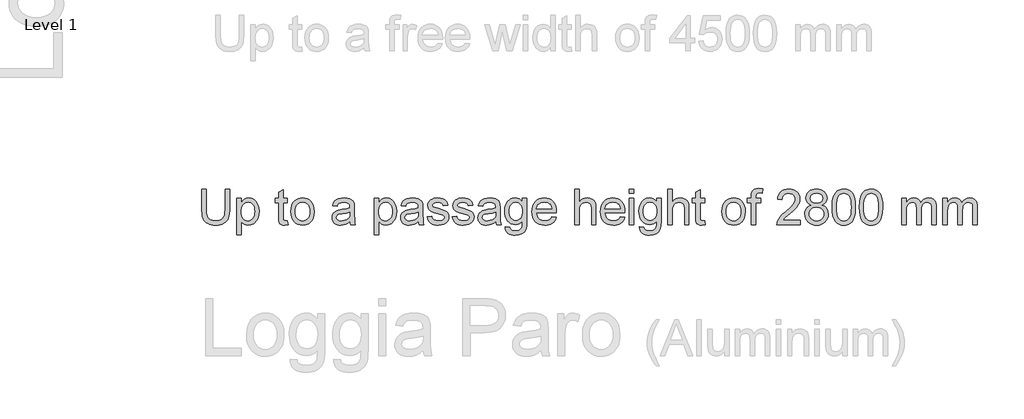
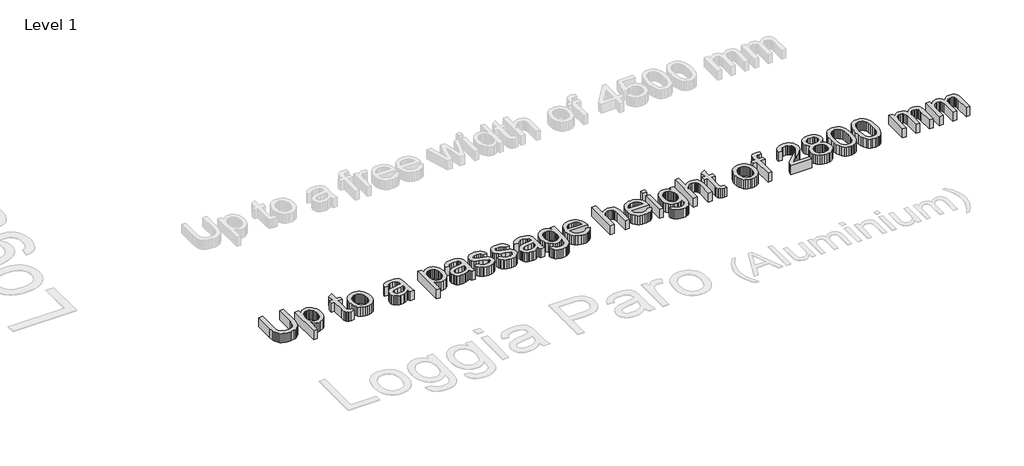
# One storey, part 16 of 47: 1 proxy.
"""IFC4 building model written with IfcOpenShell, lengths in millimetres."""

from ifc_helpers import new_model, si_unit, origin, origin_with_axes, place, context, project, spatial, polyline, outline, extrude, element, save

model = new_model("IFC4")

# Units and contexts
model_context = context("Model", 3, world=origin())
ifc_project = project(units=[si_unit("LENGTHUNIT", "METRE", prefix="MILLI")], contexts=[model_context])

# Site, building, storey
site = spatial("IfcSite", under=ifc_project)
building = spatial("IfcBuilding", under=site)
storey = spatial("IfcBuildingStorey", under=building, Name="Level 1", Elevation=0.0)

# Proxy
placement = place(None, origin())
element("IfcBuildingElementProxy", 1, Name="500mm Arial", ObjectType="500mm Arial", at=placement, inside=storey, context=model_context, shape_type="SweptSolid", body=[
    extrude(outline(polyline([(173203.9255584, -15404.5346793), (173266.7107522, -15404.5346793), (173266.7107522, -15694.3030641), (173262.4494525, -15762.1619638), (173249.6655531, -15814.4165355), (173239.4338351, -15835.6080713), (173225.7838803, -15854.7302708), (173208.7156886, -15871.7831342), (173188.2292599, -15886.7666613), (173164.3016018, -15898.9719129), (173136.9097216, -15907.6899497), (173106.0536193, -15912.9207719), (173071.7332948, -15914.6643792), (173038.2598653, -15913.146866), (173007.9824107, -15908.5943263), (172980.9009309, -15901.0067602), (172957.015426, -15890.3841675), (172936.3220637, -15876.8836647), (172918.8170121, -15860.662368), (172904.5002712, -15841.7202774), (172893.3718408, -15820.0573928), (172885.0293501, -15794.9302861), (172879.0704282, -15765.5955291), (172874.3032907, -15694.3030641), (172874.3032907, -15404.5346793), (172937.0884846, -15404.5346793), (172937.0884846, -15692.0957721), (172940.1848247, -15748.5196732), (172949.4738451, -15787.8064046), (172966.3044464, -15815.0143438), (172992.0255292, -15835.2018683), (173025.5641044, -15847.7098561), (173065.8471829, -15851.8791854), (173100.4510831, -15849.8175134), (173129.7053659, -15843.6324973), (173153.6100314, -15833.3241373), (173172.1650795, -15818.8924332), (173186.060289, -15798.5976098), (173195.9854387, -15770.6998918), (173201.9405285, -15735.1992792), (173203.9255584, -15692.0957721), (173203.9255584, -15404.5346793)])), origin_with_axes(), (0.0, 0.0, 1.0), 150.0),
    extrude(outline(polyline([(173368.7366922, -16048.0829161), (173368.7366922, -15537.9532162), (173431.5218861, -15537.9532162), (173431.5218861, -15599.5121367), (173452.0006505, -15569.1465437), (173474.9319615, -15547.4568344), (173501.6647198, -15534.4430088), (173533.5478261, -15530.1050669), (173555.444469, -15531.6225802), (173576.0075397, -15536.1751199), (173595.2370381, -15543.762686), (173613.1329644, -15554.3852786), (173629.3044437, -15567.7669862), (173643.3606016, -15583.6318972), (173665.126953, -15622.8113297), (173678.2787344, -15669.0724906), (173682.6626615, -15719.5642945), (173677.7115829, -15773.2597373), (173662.8583474, -15821.2836661), (173651.8372159, -15842.5595082), (173638.5781357, -15861.1988626), (173623.0811067, -15877.2017294), (173605.3461288, -15890.5681085), (173566.6418772, -15908.6403116), (173525.9449315, -15914.6643792), (173497.0815233, -15910.6330057), (173471.3144552, -15898.5388851), (173449.2568639, -15880.2827411), (173431.5218861, -15857.7652973), (173431.5218861, -16048.0829161), (173368.7366922, -16048.0829161)]), holes=[polyline([(173431.5218861, -15725.327779), (173433.2195082, -15755.5860731), (173438.3123746, -15781.6137243), (173446.8004852, -15803.4107325), (173458.6838401, -15820.9770978), (173472.9890847, -15834.4967611), (173488.7428648, -15844.1536635), (173505.9451801, -15849.9478049), (173524.5960309, -15851.8791854), (173543.5151289, -15849.878827), (173561.0316768, -15843.877752), (173577.1456746, -15833.8759602), (173591.8571223, -15819.8734518), (173604.1160234, -15801.6709573), (173612.8723813, -15779.0692072), (173618.126196, -15752.0682016), (173619.8774676, -15720.6679404), (173618.1683492, -15690.6702294), (173613.0409939, -15664.6885635), (173604.4954017, -15642.7229427), (173592.5315726, -15624.773367), (173578.191839, -15610.824508), (173562.5185332, -15600.8610373), (173545.5116551, -15594.8829549), (173527.1712048, -15592.8902608), (173508.8882361, -15595.0094144), (173491.6859207, -15601.3668751), (173475.5642587, -15611.962643), (173460.52325, -15626.796718), (173447.8351533, -15645.6698308), (173438.7722271, -15668.3827119), (173433.3344713, -15694.9353613), (173431.5218861, -15725.327779)])]), origin_with_axes(), (0.0, 0.0, 1.0), 150.0),
    extrude(outline(polyline([(174082.9182722, -15854.4543594), (174090.7664214, -15908.65564), (174043.8001534, -15914.6643792), (174013.6644866, -15912.0585484), (173991.1930281, -15904.241056), (173975.3127886, -15892.1929207), (173964.9507791, -15876.8951611), (173959.2486082, -15850.6222552), (173957.3478845, -15805.6486813), (173957.3478845, -15600.73841), (173910.2589891, -15600.73841), (173910.2589891, -15537.9532162), (173957.3478845, -15537.9532162), (173957.3478845, -15448.3126367), (174020.1330784, -15411.4018098), (174020.1330784, -15537.9532162), (174082.9182722, -15537.9532162), (174082.9182722, -15600.73841), (174020.1330784, -15600.73841), (174020.1330784, -15803.8092714), (174023.4440163, -15836.1828869), (174034.1739079, -15847.6485424), (174055.5723772, -15851.8791854), (174082.9182722, -15854.4543594)])), origin_with_axes(), (0.0, 0.0, 1.0), 150.0),
    extrude(outline(polyline([(174130.0071676, -15722.3847231), (174133.4024118, -15674.6137132), (174143.5881446, -15633.4492508), (174160.5643658, -15598.8913358), (174184.3310756, -15570.9399684), (174208.2587337, -15553.074699), (174234.6695952, -15540.3137923), (174263.5636603, -15532.6572483), (174294.9409288, -15530.1050669), (174329.5793179, -15533.2129034), (174360.8991048, -15542.5364127), (174388.9002896, -15558.0755949), (174413.5828722, -15579.83045), (174433.7282436, -15607.0652139), (174448.1177945, -15639.0441228), (174456.7515251, -15675.7671765), (174459.6294353, -15717.2343752), (174454.540401, -15780.6633625), (174448.1791082, -15806.6986779), (174439.2732982, -15828.9478744), (174427.9341021, -15848.1658765), (174414.272651, -15865.1076088), (174398.2889447, -15879.7730713), (174379.9829833, -15892.1622639), (174339.2553808, -15909.0388504), (174294.9409288, -15914.6643792), (174259.7967019, -15911.5680391), (174228.1856751, -15902.2790187), (174200.1078482, -15886.7973181), (174175.5632213, -15865.1229372), (174155.6324478, -15837.6237581), (174141.396181, -15804.6676627), (174132.854421, -15766.254651), (174130.0071676, -15722.3847231)]), holes=[polyline([(174192.7923614, -15722.2620958), (174194.6087788, -15752.7158272), (174200.0580308, -15779.0845356), (174209.1401176, -15801.368221), (174221.8550391, -15819.5668835), (174237.3214113, -15833.7035156), (174254.6578503, -15843.8011099), (174273.8643561, -15849.8596665), (174294.9409288, -15851.8791854), (174315.9102025, -15849.8481702), (174335.0400662, -15843.7551247), (174352.33052, -15833.6000488), (174367.7815638, -15819.3829425), (174380.4964853, -15801.0041711), (174389.578572, -15778.3641), (174395.0278241, -15751.4627291), (174396.8442414, -15720.3000584), (174395.0163278, -15690.8120173), (174389.5325868, -15665.1330876), (174380.3930185, -15643.2632694), (174367.5976228, -15625.2025627), (174352.0890975, -15611.0659306), (174334.81014, -15600.9683363), (174315.7607504, -15594.9097797), (174294.9409288, -15592.8902608), (174273.8643561, -15594.9021154), (174254.6578503, -15600.9376794), (174237.3214113, -15610.9969527), (174221.8550391, -15625.0799354), (174209.1401176, -15643.2249484), (174200.0580308, -15665.4703127), (174194.6087788, -15691.8160285), (174192.7923614, -15722.2620958)])]), origin_with_axes(), (0.0, 0.0, 1.0), 150.0),
    extrude(outline(polyline([(174961.910986, -15859.7273346), (174931.913275, -15885.4484174), (174901.0265158, -15902.2790187), (174868.5456013, -15911.5680391), (174833.7654244, -15914.6643792), (174805.8102248, -15912.8019766), (174781.2962548, -15907.2147688), (174760.2235143, -15897.9027558), (174742.5920032, -15884.8659376), (174728.669969, -15868.9320487), (174718.7256588, -15850.9288236), (174712.7590727, -15830.8562622), (174710.7702106, -15808.7143646), (174713.7745803, -15782.6867135), (174722.7876892, -15759.0502953), (174736.6905629, -15738.8167855), (174754.3642271, -15722.9978597), (174775.1342314, -15711.0416949), (174798.3261255, -15702.396468), (174852.6500335, -15692.9541635), (174916.8454416, -15683.0213496), (174961.543104, -15671.3717531), (174961.910986, -15657.3922373), (174957.5883726, -15629.371892), (174944.6205323, -15611.0391059), (174931.545393, -15603.0989861), (174915.6191683, -15597.4274721), (174875.2134625, -15592.8902608), (174837.8121263, -15595.9099588), (174811.6925047, -15604.969053), (174793.8808847, -15621.7230122), (174781.4035537, -15647.8273054), (174718.6183599, -15639.9791562), (174729.516864, -15605.6435033), (174745.7803139, -15578.6654903), (174768.9262227, -15558.0334417), (174800.4721038, -15542.7356821), (174839.0537281, -15533.2627207), (174883.3068664, -15530.1050669), (174925.7512516, -15532.8948387), (174959.3971257, -15541.2641541), (174984.765655, -15553.848784), (175002.3780055, -15569.2844994), (175014.0582588, -15588.3683779), (175021.6304966, -15611.8974972), (175024.6961799, -15666.8345418), (175024.6961799, -15744.9481521), (175027.8844905, -15854.0251637), (175032.6056428, -15880.9878483), (175040.3924783, -15906.81623), (174977.6072845, -15906.81623), (174967.5518433, -15884.988565), (174961.910986, -15859.7273346)]), holes=[polyline([(174961.910986, -15734.1569469), (174919.7271839, -15744.610927), (174860.62081, -15753.409438), (174806.6034704, -15763.5875065), (174792.5473125, -15770.5466076), (174782.1393177, -15780.1421963), (174775.7013828, -15791.6385087), (174773.5554045, -15804.2997807), (174778.2305715, -15822.9697919), (174792.2560726, -15838.2675516), (174815.3253394, -15848.4762769), (174847.1318035, -15851.8791854), (174880.8543198, -15848.1237234), (174910.6527614, -15836.8573373), (174934.8103457, -15820.2566622), (174951.6102902, -15800.4983334), (174959.0599006, -15780.1421963), (174961.543104, -15751.93791), (174961.910986, -15734.1569469)])]), origin_with_axes(), (0.0, 0.0, 1.0), 150.0),
    extrude(outline(polyline([(175307.2295522, -16048.0829161), (175307.2295522, -15537.9532162), (175370.014746, -15537.9532162), (175370.014746, -15599.5121367), (175390.4935104, -15569.1465437), (175413.4248214, -15547.4568344), (175440.1575798, -15534.4430088), (175472.040686, -15530.1050669), (175493.9373289, -15531.6225802), (175514.5003996, -15536.1751199), (175533.7298981, -15543.762686), (175551.6258243, -15554.3852786), (175567.7973037, -15567.7669862), (175581.8534616, -15583.6318972), (175603.6198129, -15622.8113297), (175616.7715943, -15669.0724906), (175621.1555214, -15719.5642945), (175616.2044429, -15773.2597373), (175601.3512073, -15821.2836661), (175590.3300759, -15842.5595082), (175577.0709956, -15861.1988626), (175561.5739666, -15877.2017294), (175543.8389887, -15890.5681085), (175505.1347372, -15908.6403116), (175464.4377914, -15914.6643792), (175435.5743832, -15910.6330057), (175409.8073152, -15898.5388851), (175387.7497239, -15880.2827411), (175370.014746, -15857.7652973), (175370.014746, -16048.0829161), (175307.2295522, -16048.0829161)]), holes=[polyline([(175370.014746, -15725.327779), (175371.7123681, -15755.5860731), (175376.8052345, -15781.6137243), (175385.2933451, -15803.4107325), (175397.1767, -15820.9770978), (175411.4819446, -15834.4967611), (175427.2357247, -15844.1536635), (175444.4380401, -15849.9478049), (175463.0888908, -15851.8791854), (175482.0079888, -15849.878827), (175499.5245367, -15843.877752), (175515.6385345, -15833.8759602), (175530.3499822, -15819.8734518), (175542.6088833, -15801.6709573), (175551.3652412, -15779.0692072), (175556.619056, -15752.0682016), (175558.3703275, -15720.6679404), (175556.6612091, -15690.6702294), (175551.5338538, -15664.6885635), (175542.9882616, -15642.7229427), (175531.0244326, -15624.773367), (175516.684699, -15610.824508), (175501.0113931, -15600.8610373), (175484.0045151, -15594.8829549), (175465.6640648, -15592.8902608), (175447.381096, -15595.0094144), (175430.1787806, -15601.3668751), (175414.0571186, -15611.962643), (175399.01611, -15626.796718), (175386.3280132, -15645.6698308), (175377.265087, -15668.3827119), (175371.8273313, -15694.9353613), (175370.014746, -15725.327779)])]), origin_with_axes(), (0.0, 0.0, 1.0), 150.0),
    extrude(outline(polyline([(175927.2333414, -15859.7273346), (175897.2356303, -15885.4484174), (175866.3488712, -15902.2790187), (175833.8679567, -15911.5680391), (175799.0877797, -15914.6643792), (175771.1325802, -15912.8019766), (175746.6186102, -15907.2147688), (175725.5458696, -15897.9027558), (175707.9143586, -15884.8659376), (175693.9923243, -15868.9320487), (175684.0480141, -15850.9288236), (175678.081428, -15830.8562622), (175676.092566, -15808.7143646), (175679.0969356, -15782.6867135), (175688.1100445, -15759.0502953), (175702.0129182, -15738.8167855), (175719.6865824, -15722.9978597), (175740.4565867, -15711.0416949), (175763.6484808, -15702.396468), (175817.9723888, -15692.9541635), (175882.167797, -15683.0213496), (175926.8654594, -15671.3717531), (175927.2333414, -15657.3922373), (175922.9107279, -15629.371892), (175909.9428876, -15611.0391059), (175896.8677483, -15603.0989861), (175880.9415236, -15597.4274721), (175840.5358178, -15592.8902608), (175803.1344817, -15595.9099588), (175777.01486, -15604.969053), (175759.2032401, -15621.7230122), (175746.7259091, -15647.8273054), (175683.9407152, -15639.9791562), (175694.8392193, -15605.6435033), (175711.1026692, -15578.6654903), (175734.2485781, -15558.0334417), (175765.7944592, -15542.7356821), (175804.3760834, -15533.2627207), (175848.6292217, -15530.1050669), (175891.0736069, -15532.8948387), (175924.7194811, -15541.2641541), (175950.0880103, -15553.848784), (175967.7003608, -15569.2844994), (175979.3806142, -15588.3683779), (175986.9528519, -15611.8974972), (175990.0185352, -15666.8345418), (175990.0185352, -15744.9481521), (175993.2068458, -15854.0251637), (175997.9279981, -15880.9878483), (176005.7148337, -15906.81623), (175942.9296398, -15906.81623), (175932.8741986, -15884.988565), (175927.2333414, -15859.7273346)]), holes=[polyline([(175927.2333414, -15734.1569469), (175885.0495393, -15744.610927), (175825.9431654, -15753.409438), (175771.9258257, -15763.5875065), (175757.8696678, -15770.5466076), (175747.4616731, -15780.1421963), (175741.0237381, -15791.6385087), (175738.8777598, -15804.2997807), (175743.5529269, -15822.9697919), (175757.5784279, -15838.2675516), (175780.6476947, -15848.4762769), (175812.4541589, -15851.8791854), (175846.1766751, -15848.1237234), (175875.9751167, -15836.8573373), (175900.1327011, -15820.2566622), (175916.9326455, -15800.4983334), (175924.3822559, -15780.1421963), (175926.8654594, -15751.93791), (175927.2333414, -15734.1569469)])]), origin_with_axes(), (0.0, 0.0, 1.0), 150.0),
    extrude(outline(polyline([(176052.8037291, -15796.9421408), (176115.5889229, -15789.0939915), (176125.4910799, -15815.9493772), (176144.6516005, -15835.6923776), (176173.193112, -15847.8324834), (176211.2382416, -15851.8791854), (176248.8235188, -15848.1697086), (176275.2497088, -15837.0412782), (176290.8846936, -15820.9157841), (176296.0963552, -15802.215116), (176290.8540368, -15786.2122492), (176275.1270815, -15774.0108297), (176210.5024777, -15756.1072393), (176153.2048569, -15739.5372211), (176115.9568049, -15725.3890927), (176092.0291468, -15709.9533773), (176074.6927078, -15689.5205982), (176064.1620857, -15665.3936707), (176060.6518783, -15638.8755102), (176063.4723069, -15614.5493132), (176071.9335928, -15592.0931831), (176085.2693151, -15572.396168), (176102.7130531, -15556.3473159), (176120.0494921, -15546.2458895), (176142.6282495, -15537.7692752), (176168.7325428, -15532.021119), (176196.6455892, -15530.1050669), (176237.5111475, -15533.1860786), (176273.0424168, -15542.4291138), (176301.6145851, -15556.9297958), (176321.6028402, -15575.783748), (176334.846592, -15600.3858564), (176343.1852506, -15632.1310069), (176280.4000567, -15639.9791562), (176272.4752654, -15620.2208273), (176256.7942954, -15605.336935), (176233.2038624, -15596.0019293), (176201.5506824, -15592.8902608), (176165.4982469, -15595.8639736), (176141.4632899, -15604.785112), (176127.9436266, -15617.6609818), (176123.4370721, -15632.4988889), (176125.3071389, -15642.1557913), (176130.9173394, -15650.7703614), (176140.5129281, -15658.4652264), (176154.3391597, -15664.6272498), (176208.417813, -15677.993629), (176300.5722528, -15707.5468159), (176324.9137782, -15721.6796159), (176343.3691916, -15741.0240775), (176355.0034597, -15765.6415144), (176358.881549, -15795.5932401), (176354.3290094, -15826.5566414), (176340.6713903, -15855.6806327), (176318.429858, -15880.6812799), (176288.1255786, -15899.2746491), (176251.5213201, -15910.8169467), (176210.3798503, -15914.6643792), (176176.5883562, -15912.8096408), (176147.0734903, -15907.2454257), (176121.8352526, -15897.9717337), (176100.8736431, -15884.988565), (176083.7518019, -15868.3572331), (176070.0328692, -15848.1390518), (176059.7168449, -15824.334021), (176052.8037291, -15796.9421408)])), origin_with_axes(), (0.0, 0.0, 1.0), 150.0),
    extrude(outline(polyline([(176405.9704444, -15796.9421408), (176468.7556383, -15789.0939915), (176478.6577953, -15815.9493772), (176497.8183159, -15835.6923776), (176526.3598273, -15847.8324834), (176564.404957, -15851.8791854), (176601.9902342, -15848.1697086), (176628.4164242, -15837.0412782), (176644.051409, -15820.9157841), (176649.2630706, -15802.215116), (176644.0207521, -15786.2122492), (176628.2937968, -15774.0108297), (176563.669193, -15756.1072393), (176506.3715723, -15739.5372211), (176469.1235203, -15725.3890927), (176445.1958622, -15709.9533773), (176427.8594231, -15689.5205982), (176417.328801, -15665.3936707), (176413.8185937, -15638.8755102), (176416.6390223, -15614.5493132), (176425.1003082, -15592.0931831), (176438.4360305, -15572.396168), (176455.8797684, -15556.3473159), (176473.2162075, -15546.2458895), (176495.7949649, -15537.7692752), (176521.8992582, -15532.021119), (176549.8123045, -15530.1050669), (176590.6778628, -15533.1860786), (176626.2091322, -15542.4291138), (176654.7813005, -15556.9297958), (176674.7695556, -15575.783748), (176688.0133074, -15600.3858564), (176696.351966, -15632.1310069), (176633.5667721, -15639.9791562), (176625.6419808, -15620.2208273), (176609.9610107, -15605.336935), (176586.3705778, -15596.0019293), (176554.7173978, -15592.8902608), (176518.6649623, -15595.8639736), (176494.6300053, -15604.785112), (176481.1103419, -15617.6609818), (176476.6037875, -15632.4988889), (176478.4738543, -15642.1557913), (176484.0840547, -15650.7703614), (176493.6796434, -15658.4652264), (176507.5058751, -15664.6272498), (176561.5845284, -15677.993629), (176653.7389682, -15707.5468159), (176678.0804935, -15721.6796159), (176696.5359069, -15741.0240775), (176708.170175, -15765.6415144), (176712.0482644, -15795.5932401), (176707.4957247, -15826.5566414), (176693.8381056, -15855.6806327), (176671.5965734, -15880.6812799), (176641.292294, -15899.2746491), (176604.6880355, -15910.8169467), (176563.5465657, -15914.6643792), (176529.7550716, -15912.8096408), (176500.2402057, -15907.2454257), (176475.001968, -15897.9717337), (176454.0403585, -15884.988565), (176436.9185173, -15868.3572331), (176423.1995845, -15848.1390518), (176412.8835603, -15824.334021), (176405.9704444, -15796.9421408)])), origin_with_axes(), (0.0, 0.0, 1.0), 150.0),
    extrude(outline(polyline([(177018.1260844, -15859.7273346), (176988.1283734, -15885.4484174), (176957.2416142, -15902.2790187), (176924.7606997, -15911.5680391), (176889.9805227, -15914.6643792), (176862.0253232, -15912.8019766), (176837.5113532, -15907.2147688), (176816.4386126, -15897.9027558), (176798.8071016, -15884.8659376), (176784.8850674, -15868.9320487), (176774.9407572, -15850.9288236), (176768.9741711, -15830.8562622), (176766.985309, -15808.7143646), (176769.9896787, -15782.6867135), (176779.0027875, -15759.0502953), (176792.9056613, -15738.8167855), (176810.5793255, -15722.9978597), (176831.3493298, -15711.0416949), (176854.5412239, -15702.396468), (176908.8651318, -15692.9541635), (176973.06054, -15683.0213496), (177017.7582024, -15671.3717531), (177018.1260844, -15657.3922373), (177013.803471, -15629.371892), (177000.8356306, -15611.0391059), (176987.7604914, -15603.0989861), (176971.8342667, -15597.4274721), (176931.4285609, -15592.8902608), (176894.0272247, -15595.9099588), (176867.907603, -15604.969053), (176850.0959831, -15621.7230122), (176837.6186521, -15647.8273054), (176774.8334583, -15639.9791562), (176785.7319624, -15605.6435033), (176801.9954122, -15578.6654903), (176825.1413211, -15558.0334417), (176856.6872022, -15542.7356821), (176895.2688264, -15533.2627207), (176939.5219648, -15530.1050669), (176981.96635, -15532.8948387), (177015.6122241, -15541.2641541), (177040.9807533, -15553.848784), (177058.5931039, -15569.2844994), (177070.2733572, -15588.3683779), (177077.8455949, -15611.8974972), (177080.9112782, -15666.8345418), (177080.9112782, -15744.9481521), (177084.0995889, -15854.0251637), (177088.8207411, -15880.9878483), (177096.6075767, -15906.81623), (177033.8223829, -15906.81623), (177023.7669417, -15884.988565), (177018.1260844, -15859.7273346)]), holes=[polyline([(177018.1260844, -15734.1569469), (176975.9422823, -15744.610927), (176916.8359084, -15753.409438), (176862.8185688, -15763.5875065), (176848.7624109, -15770.5466076), (176838.3544161, -15780.1421963), (176831.9164812, -15791.6385087), (176829.7705029, -15804.2997807), (176834.4456699, -15822.9697919), (176848.471171, -15838.2675516), (176871.5404377, -15848.4762769), (176903.3469019, -15851.8791854), (176937.0694181, -15848.1237234), (176966.8678597, -15836.8573373), (176991.0254441, -15820.2566622), (177007.8253885, -15800.4983334), (177015.2749989, -15780.1421963), (177017.7582024, -15751.93791), (177018.1260844, -15734.1569469)])]), origin_with_axes(), (0.0, 0.0, 1.0), 150.0),
    extrude(outline(polyline([(177151.5446213, -15938.2088269), (177214.3298152, -15946.0569762), (177221.2582594, -15965.6773492), (177234.6859522, -15979.1663557), (177261.0814854, -15989.6509926), (177295.6317361, -15993.1458715), (177332.4812493, -15989.1911401), (177359.8884579, -15977.3269457), (177378.8956943, -15958.3197093), (177390.5452908, -15932.9358517), (177393.9481993, -15905.9271818), (177394.8372475, -15859.7273346), (177373.9446158, -15880.3287263), (177350.6300944, -15895.0440062), (177324.8936831, -15903.873174), (177296.7353821, -15906.81623), (177262.3115908, -15903.3903289), (177232.0034793, -15893.1126257), (177205.8110477, -15875.9831203), (177183.7342959, -15852.0018127), (177166.217748, -15823.230375), (177153.705928, -15791.7304792), (177146.1988361, -15757.5021252), (177143.6964721, -15720.5453131), (177148.1876981, -15669.8542399), (177161.6613762, -15623.2405254), (177183.6423254, -15583.7391962), (177197.6448338, -15567.7938109), (177213.6553648, -15554.3852786), (177231.4171674, -15543.762686), (177250.6734906, -15536.1751199), (177271.4243344, -15531.6225802), (177293.6696988, -15530.1050669), (177323.0312805, -15533.5386322), (177349.6797326, -15543.8393281), (177373.6150549, -15561.0071545), (177394.8372475, -15585.0421116), (177394.8372475, -15537.9532162), (177457.6224413, -15537.9532162), (177457.6224413, -15856.4163967), (177453.3304847, -15929.9468104), (177447.9655389, -15957.2965375), (177440.4546149, -15978.3692781), (177418.2743962, -16010.4823106), (177386.0693932, -16035.084419), (177366.3838744, -16044.2048268), (177344.544713, -16050.7194038), (177294.4054628, -16055.9310654), (177263.645163, -16054.0954875), (177235.9888676, -16048.5887539), (177211.4365766, -16039.4108645), (177189.9882898, -16026.5618194), (177172.6633471, -16010.0262902), (177160.4810881, -15989.7889483), (177153.4415129, -15965.8497939), (177151.5446213, -15938.2088269)]), holes=[polyline([(177206.4816659, -15716.2533565), (177208.1562954, -15747.2972319), (177213.1801839, -15773.8422172), (177221.5533314, -15795.8883121), (177233.2757379, -15813.4355169), (177247.5273331, -15826.8210566), (177263.4880468, -15836.3821563), (177281.1578788, -15842.1188162), (177300.5368294, -15844.0310362), (177319.7241747, -15842.1303125), (177337.3097005, -15836.4281416), (177353.2934067, -15826.9245234), (177367.6752935, -15813.6194579), (177379.5586483, -15796.2446978), (177388.046759, -15774.5319959), (177393.1396253, -15748.4813521), (177394.8372475, -15718.0927665), (177393.089808, -15688.9726073), (177387.8474896, -15663.6615596), (177379.1102922, -15642.1596234), (177366.8782158, -15624.4667987), (177352.1859286, -15610.6520634), (177336.0680987, -15600.7843953), (177318.5247261, -15594.8637944), (177299.5558107, -15592.8902608), (177280.90496, -15594.8331376), (177263.7026446, -15600.6617679), (177247.9488646, -15610.3761519), (177233.6436199, -15623.9762894), (177221.760265, -15641.4008668), (177213.2721544, -15662.5885705), (177208.1792881, -15687.5394004), (177206.4816659, -15716.2533565)])]), origin_with_axes(), (0.0, 0.0, 1.0), 150.0),
    extrude(outline(polyline([(177810.0533927, -15796.9421408), (177871.6123132, -15804.79029), (177862.1738408, -15829.4460479), (177849.4320946, -15851.1740782), (177833.3870746, -15869.974381), (177814.038781, -15885.8469563), (177791.5864829, -15898.4545788), (177766.22945, -15907.4600235), (177737.9676821, -15912.8632903), (177706.8011794, -15914.6643792), (177667.8440089, -15911.5565428), (177633.1328098, -15902.2330335), (177602.6675821, -15886.6938513), (177576.4483257, -15864.9389962), (177555.3640889, -15837.5739407), (177540.3039197, -15805.2041572), (177531.2678182, -15767.8296458), (177528.2557844, -15725.4504064), (177531.298475, -15681.6341279), (177540.4265471, -15643.0141826), (177555.6400004, -15609.5905705), (177576.9388351, -15581.3632916), (177603.0891136, -15558.9378183), (177632.8568983, -15542.9196231), (177666.2421894, -15533.308706), (177703.2449867, -15530.1050669), (177739.0559997, -15533.3010418), (177771.4411116, -15542.8889663), (177800.4003224, -15558.8688404), (177825.9336321, -15581.2406643), (177846.7764464, -15609.4066295), (177861.6641709, -15642.768928), (177870.5968056, -15681.3275596), (177873.5743505, -15725.0825244), (177873.2064685, -15742.0050962), (177591.0409782, -15742.0050962), (177594.677645, -15767.0593929), (177601.9088255, -15789.002021), (177612.7345196, -15807.8329807), (177627.1547274, -15823.5522718), (177644.3723712, -15835.9452965), (177663.5903734, -15844.797457), (177684.8087338, -15850.1087533), (177708.0274527, -15851.8791854), (177741.4434006, -15848.5989043), (177769.5863732, -15838.7580609), (177792.4563706, -15821.7435186), (177810.0533927, -15796.9421408)]), holes=[polyline([(177591.0409782, -15679.2199023), (177810.7891567, -15679.2199023), (177802.297214, -15646.0492091), (177785.6505537, -15622.3208204), (177768.5287125, -15609.4449506), (177749.0462951, -15600.2479007), (177727.2033017, -15594.7296708), (177702.9997321, -15592.8902608), (177660.6779742, -15598.7610443), (177642.2647139, -15606.0995237), (177625.6831994, -15616.3733948), (177611.7688294, -15629.1074768), (177601.3570025, -15643.8265887), (177594.4477188, -15660.5307305), (177591.0409782, -15679.2199023)])]), origin_with_axes(), (0.0, 0.0, 1.0), 150.0),
    extrude(outline(polyline([(178132.5632751, -15906.81623), (178132.5632751, -15404.5346793), (178195.348469, -15404.5346793), (178195.348469, -15589.2114408), (178218.4100715, -15563.3524023), (178244.3074312, -15544.8816604), (178273.0405478, -15533.7992153), (178304.6094215, -15530.1050669), (178342.5319239, -15534.1364405), (178375.1201373, -15546.2305611), (178400.7799064, -15565.4370669), (178417.917076, -15590.8055961), (178427.5739784, -15625.6624152), (178430.7929459, -15673.3337904), (178430.7929459, -15906.81623), (178368.007752, -15906.81623), (178368.007752, -15679.833039), (178363.0106883, -15640.5309792), (178356.7643586, -15625.5244594), (178348.019497, -15613.6142798), (178336.9830371, -15604.5475215), (178323.8619126, -15598.0712655), (178291.3656697, -15592.8902608), (178264.8321808, -15596.3851397), (178239.923504, -15606.8697766), (178219.2914555, -15623.3324959), (178205.5878512, -15644.7616221), (178197.9083145, -15673.2418199), (178195.348469, -15710.8577539), (178195.348469, -15906.81623), (178132.5632751, -15906.81623)])), origin_with_axes(), (0.0, 0.0, 1.0), 150.0),
    extrude(outline(polyline([(178775.375748, -15796.9421408), (178836.9346686, -15804.79029), (178827.4961961, -15829.4460479), (178814.7544499, -15851.1740782), (178798.70943, -15869.974381), (178779.3611363, -15885.8469563), (178756.9088383, -15898.4545788), (178731.5518054, -15907.4600235), (178703.2900375, -15912.8632903), (178672.1235347, -15914.6643792), (178633.1663643, -15911.5565428), (178598.4551652, -15902.2330335), (178567.9899375, -15886.6938513), (178541.7706811, -15864.9389962), (178520.6864442, -15837.5739407), (178505.6262751, -15805.2041572), (178496.5901736, -15767.8296458), (178493.5781397, -15725.4504064), (178496.6208304, -15681.6341279), (178505.7489024, -15643.0141826), (178520.9623557, -15609.5905705), (178542.2611904, -15581.3632916), (178568.4114689, -15558.9378183), (178598.1792537, -15542.9196231), (178631.5645447, -15533.308706), (178668.5673421, -15530.1050669), (178704.3783551, -15533.3010418), (178736.7634669, -15542.8889663), (178765.7226778, -15558.8688404), (178791.2559875, -15581.2406643), (178812.0988018, -15609.4066295), (178826.9865263, -15642.768928), (178835.919161, -15681.3275596), (178838.8967059, -15725.0825244), (178838.5288239, -15742.0050962), (178556.3633336, -15742.0050962), (178560.0000004, -15767.0593929), (178567.2311808, -15789.002021), (178578.056875, -15807.8329807), (178592.4770828, -15823.5522718), (178609.6947266, -15835.9452965), (178628.9127287, -15844.797457), (178650.1310892, -15850.1087533), (178673.349808, -15851.8791854), (178706.7657559, -15848.5989043), (178734.9087286, -15838.7580609), (178757.7787259, -15821.7435186), (178775.375748, -15796.9421408)]), holes=[polyline([(178556.3633336, -15679.2199023), (178776.111512, -15679.2199023), (178767.6195693, -15646.0492091), (178750.972909, -15622.3208204), (178733.8510678, -15609.4449506), (178714.3686505, -15600.2479007), (178692.525657, -15594.7296708), (178668.3220874, -15592.8902608), (178626.0003296, -15598.7610443), (178607.5870693, -15606.0995237), (178591.0055548, -15616.3733948), (178577.0911847, -15629.1074768), (178566.6793578, -15643.8265887), (178559.7700741, -15660.5307305), (178556.3633336, -15679.2199023)])]), origin_with_axes(), (0.0, 0.0, 1.0), 150.0),
    extrude(outline(polyline([(178901.6818997, -15467.3198731), (178901.6818997, -15404.5346793), (178964.4670935, -15404.5346793), (178964.4670935, -15467.3198731), (178901.6818997, -15467.3198731)])), origin_with_axes(), (0.0, 0.0, 1.0), 150.0),
    extrude(outline(polyline([(178901.6818997, -15906.81623), (178901.6818997, -15537.9532162), (178964.4670935, -15537.9532162), (178964.4670935, -15906.81623), (178901.6818997, -15906.81623)])), origin_with_axes(), (0.0, 0.0, 1.0), 150.0),
    extrude(outline(polyline([(179042.9485859, -15938.2088269), (179105.7337797, -15946.0569762), (179112.6622239, -15965.6773492), (179126.0899168, -15979.1663557), (179152.4854499, -15989.6509926), (179187.0357006, -15993.1458715), (179223.8852138, -15989.1911401), (179251.2924225, -15977.3269457), (179270.2996589, -15958.3197093), (179281.9492554, -15932.9358517), (179285.3521638, -15905.9271818), (179286.241212, -15859.7273346), (179265.3485804, -15880.3287263), (179242.0340589, -15895.0440062), (179216.2976477, -15903.873174), (179188.1393466, -15906.81623), (179153.7155553, -15903.3903289), (179123.4074439, -15893.1126257), (179097.2150122, -15875.9831203), (179075.1382604, -15852.0018127), (179057.6217125, -15823.230375), (179045.1098926, -15791.7304792), (179037.6028006, -15757.5021252), (179035.1004366, -15720.5453131), (179039.5916626, -15669.8542399), (179053.0653407, -15623.2405254), (179075.0462899, -15583.7391962), (179089.0487984, -15567.7938109), (179105.0593294, -15554.3852786), (179122.8211319, -15543.762686), (179142.0774551, -15536.1751199), (179162.8282989, -15531.6225802), (179185.0736633, -15530.1050669), (179214.4352451, -15533.5386322), (179241.0836971, -15543.8393281), (179265.0190194, -15561.0071545), (179286.241212, -15585.0421116), (179286.241212, -15537.9532162), (179349.0264058, -15537.9532162), (179349.0264058, -15856.4163967), (179344.7344492, -15929.9468104), (179339.3695035, -15957.2965375), (179331.8585794, -15978.3692781), (179309.6783608, -16010.4823106), (179277.4733578, -16035.084419), (179257.7878389, -16044.2048268), (179235.9486776, -16050.7194038), (179185.8094273, -16055.9310654), (179155.0491276, -16054.0954875), (179127.3928322, -16048.5887539), (179102.8405411, -16039.4108645), (179081.3922543, -16026.5618194), (179064.0673116, -16010.0262902), (179051.8850527, -15989.7889483), (179044.8454774, -15965.8497939), (179042.9485859, -15938.2088269)]), holes=[polyline([(179097.8856305, -15716.2533565), (179099.56026, -15747.2972319), (179104.5841485, -15773.8422172), (179112.957296, -15795.8883121), (179124.6797024, -15813.4355169), (179138.9312977, -15826.8210566), (179154.8920113, -15836.3821563), (179172.5618434, -15842.1188162), (179191.9407939, -15844.0310362), (179211.1281392, -15842.1303125), (179228.713665, -15836.4281416), (179244.6973713, -15826.9245234), (179259.079258, -15813.6194579), (179270.9626129, -15796.2446978), (179279.4507235, -15774.5319959), (179284.5435899, -15748.4813521), (179286.241212, -15718.0927665), (179284.4937725, -15688.9726073), (179279.2514541, -15663.6615596), (179270.5142567, -15642.1596234), (179258.2821804, -15624.4667987), (179243.5898932, -15610.6520634), (179227.4720633, -15600.7843953), (179209.9286906, -15594.8637944), (179190.9597752, -15592.8902608), (179172.3089245, -15594.8331376), (179155.1066091, -15600.6617679), (179139.3528291, -15610.3761519), (179125.0475844, -15623.9762894), (179113.1642296, -15641.4008668), (179104.676119, -15662.5885705), (179099.5832526, -15687.5394004), (179097.8856305, -15716.2533565)])]), origin_with_axes(), (0.0, 0.0, 1.0), 150.0),
    extrude(outline(polyline([(179443.2041966, -15906.81623), (179443.2041966, -15404.5346793), (179505.9893904, -15404.5346793), (179505.9893904, -15589.2114408), (179529.050993, -15563.3524023), (179554.9483526, -15544.8816604), (179583.6814693, -15533.7992153), (179615.250343, -15530.1050669), (179653.1728454, -15534.1364405), (179685.7610588, -15546.2305611), (179711.4208279, -15565.4370669), (179728.5579975, -15590.8055961), (179738.2148999, -15625.6624152), (179741.4338674, -15673.3337904), (179741.4338674, -15906.81623), (179678.6486735, -15906.81623), (179678.6486735, -15679.833039), (179673.6516097, -15640.5309792), (179667.40528, -15625.5244594), (179658.6604184, -15613.6142798), (179647.6239586, -15604.5475215), (179634.5028341, -15598.0712655), (179602.0065912, -15592.8902608), (179575.4731023, -15596.3851397), (179550.5644255, -15606.8697766), (179529.932377, -15623.3324959), (179516.2287726, -15644.7616221), (179508.549236, -15673.2418199), (179505.9893904, -15710.8577539), (179505.9893904, -15906.81623), (179443.2041966, -15906.81623)])), origin_with_axes(), (0.0, 0.0, 1.0), 150.0),
    extrude(outline(polyline([(179961.1820458, -15854.4543594), (179969.030195, -15908.65564), (179922.063927, -15914.6643792), (179891.9282602, -15912.0585484), (179869.4568017, -15904.241056), (179853.5765622, -15892.1929207), (179843.2145527, -15876.8951611), (179837.5123818, -15850.6222552), (179835.6116581, -15805.6486813), (179835.6116581, -15600.73841), (179788.5227627, -15600.73841), (179788.5227627, -15537.9532162), (179835.6116581, -15537.9532162), (179835.6116581, -15448.3126367), (179898.396852, -15411.4018098), (179898.396852, -15537.9532162), (179961.1820458, -15537.9532162), (179961.1820458, -15600.73841), (179898.396852, -15600.73841), (179898.396852, -15803.8092714), (179901.7077899, -15836.1828869), (179912.4376815, -15847.6485424), (179933.8361508, -15851.8791854), (179961.1820458, -15854.4543594)])), origin_with_axes(), (0.0, 0.0, 1.0), 150.0),
    extrude(outline(polyline([(180204.474672, -15722.3847231), (180207.8699162, -15674.6137132), (180218.0556489, -15633.4492508), (180235.0318702, -15598.8913358), (180258.7985799, -15570.9399684), (180282.726238, -15553.074699), (180309.1370996, -15540.3137923), (180338.0311646, -15532.6572483), (180369.4084331, -15530.1050669), (180404.0468222, -15533.2129034), (180435.3666092, -15542.5364127), (180463.367794, -15558.0755949), (180488.0503766, -15579.83045), (180508.1957479, -15607.0652139), (180522.5852989, -15639.0441228), (180531.2190294, -15675.7671765), (180534.0969396, -15717.2343752), (180529.0079054, -15780.6633625), (180522.6466125, -15806.6986779), (180513.7408026, -15828.9478744), (180502.4016065, -15848.1658765), (180488.7401553, -15865.1076088), (180472.756449, -15879.7730712), (180454.4504877, -15892.1622639), (180413.7228851, -15909.0388504), (180369.4084331, -15914.6643792), (180334.2642063, -15911.5680391), (180302.6531794, -15902.2790187), (180274.5753526, -15886.7973181), (180250.0307257, -15865.1229372), (180230.0999522, -15837.6237581), (180215.8636854, -15804.6676627), (180207.3219253, -15766.254651), (180204.474672, -15722.3847231)]), holes=[polyline([(180267.2598658, -15722.2620958), (180269.0762832, -15752.7158272), (180274.5255352, -15779.0845356), (180283.607622, -15801.368221), (180296.3225434, -15819.5668835), (180311.7889156, -15833.7035156), (180329.1253547, -15843.8011099), (180348.3318605, -15849.8596665), (180369.4084331, -15851.8791854), (180390.3777069, -15849.8481702), (180409.5075706, -15843.7551247), (180426.7980244, -15833.6000488), (180442.2490682, -15819.3829425), (180454.9639896, -15801.0041711), (180464.0460764, -15778.3641), (180469.4953284, -15751.4627291), (180471.3117458, -15720.3000584), (180469.4838321, -15690.8120173), (180464.0000911, -15665.1330876), (180454.8605228, -15643.2632694), (180442.0651272, -15625.2025627), (180426.5566018, -15611.0659306), (180409.2776444, -15600.9683363), (180390.2282548, -15594.9097797), (180369.4084331, -15592.8902608), (180348.3318605, -15594.9021154), (180329.1253547, -15600.9376794), (180311.7889156, -15610.9969527), (180296.3225434, -15625.0799354), (180283.607622, -15643.2249484), (180274.5255352, -15665.4703127), (180269.0762832, -15691.8160285), (180267.2598658, -15722.2620958)])]), origin_with_axes(), (0.0, 0.0, 1.0), 150.0),
    extrude(outline(polyline([(180620.4265812, -15906.81623), (180620.4265812, -15600.73841), (180565.4895366, -15600.73841), (180565.4895366, -15537.9532162), (180620.4265812, -15537.9532162), (180620.4265812, -15500.7971347), (180622.0820501, -15470.0483312), (180627.0484571, -15448.435264), (180639.6790723, -15427.5579608), (180659.176818, -15411.0339278), (180686.4613993, -15400.2733795), (180722.4525212, -15396.68653), (180779.7194851, -15403.5536606), (180770.5224352, -15462.4147798), (180734.3473723, -15459.4717239), (180710.4810279, -15462.0775547), (180694.8000579, -15469.8950471), (180686.1088457, -15484.8249247), (180683.211775, -15508.7679112), (180683.211775, -15537.9532162), (180753.8451181, -15537.9532162), (180753.8451181, -15600.73841), (180683.211775, -15600.73841), (180683.211775, -15906.81623), (180620.4265812, -15906.81623)])), origin_with_axes(), (0.0, 0.0, 1.0), 150.0),
    extrude(outline(polyline([(181311.0637134, -15844.0310362), (181311.0637134, -15906.81623), (180981.4414458, -15906.81623), (180982.8210033, -15884.7126535), (180988.185949, -15863.5287819), (181003.6676496, -15829.6989668), (181026.3230492, -15796.8808271), (181059.0952036, -15762.5298458), (181104.9271688, -15724.1015057), (181172.6787696, -15663.9221427), (181213.3297301, -15619.5003918), (181233.6552103, -15583.4479562), (181238.7365804, -15565.7896205), (181240.4303704, -15548.3765394), (181238.832383, -15531.9942943), (181234.0384207, -15516.9379572), (181226.0484836, -15503.2075281), (181214.8625717, -15490.8030071), (181201.1014858, -15480.529136), (181185.3860268, -15473.1906566), (181167.7161948, -15468.787569), (181148.0919896, -15467.3198731), (181108.9278855, -15473.0527009), (181092.6222825, -15480.2187356), (181078.5009788, -15490.2511841), (181067.0774765, -15502.8128214), (181058.8652773, -15517.5664223), (181053.8643815, -15534.5119867), (181052.0747888, -15553.6495146), (180989.289595, -15545.8013654), (180994.6890297, -15513.3894288), (181004.5107126, -15485.0701794), (181018.7546436, -15460.8436171), (181037.4208227, -15440.7097421), (181060.0800543, -15424.8831521), (181086.3031428, -15413.578445), (181116.0900881, -15406.7956207), (181149.4408902, -15404.5346793), (181183.0905965, -15407.0485396), (181213.0384901, -15414.5901205), (181239.2845712, -15427.159422), (181261.8288398, -15444.7564441), (181279.9355317, -15466.0782714), (181292.8688831, -15489.8219885), (181300.6288939, -15515.9875954), (181303.2155642, -15544.5750921), (181300.4257924, -15574.6034599), (181292.056477, -15604.1106616), (181277.2032415, -15634.1237011), (181254.9617092, -15665.6695822), (181219.5070819, -15703.3315014), (181165.0145614, -15751.6926554), (181092.787063, -15812.0866162), (181064.4601493, -15844.0310362), (181311.0637134, -15844.0310362)])), origin_with_axes(), (0.0, 0.0, 1.0), 150.0),
    extrude(outline(polyline([(181465.3288968, -15630.1689696), (181431.7136794, -15613.6142798), (181408.1232465, -15591.1734781), (181394.1897159, -15563.306417), (181389.5452058, -15530.4729489), (181392.0743945, -15504.8668292), (181399.6619606, -15481.3913594), (181412.3079042, -15460.0465395), (181430.0122252, -15440.8323694), (181451.9241966, -15424.95213), (181477.1930911, -15413.6091018), (181505.8189089, -15406.8032849), (181537.8016498, -15404.5346793), (181569.9376749, -15406.8569343), (181598.7780905, -15413.8236996), (181624.3228965, -15425.4349751), (181646.572093, -15441.6907608), (181664.5983108, -15461.280477), (181677.4741806, -15482.8935442), (181685.1997025, -15506.5299624), (181687.7748765, -15532.1897316), (181683.19168, -15563.9655389), (181669.4420904, -15591.3574191), (181646.3728236, -15613.6602651), (181613.8305955, -15630.1689696), (181634.4664761, -15638.9483202), (181652.4735334, -15650.0805826), (181667.8517672, -15663.565757), (181680.6011776, -15679.4038433), (181690.6068015, -15697.242288), (181697.7536756, -15716.7285374), (181703.471175, -15760.6444506), (181700.6354179, -15791.9604054), (181692.1281468, -15820.6705295), (181677.9493616, -15846.7748227), (181658.0990622, -15870.2732851), (181633.6195811, -15889.6943888), (181605.5532506, -15903.5666057), (181573.9000706, -15911.8899358), (181538.6600411, -15914.6643792), (181503.4200117, -15911.8784395), (181471.7668317, -15903.5206205), (181443.7005011, -15889.590922), (181419.22102, -15870.0893441), (181399.3707207, -15846.4261012), (181385.1919355, -15820.0114076), (181376.6846643, -15790.8452631), (181373.8489073, -15758.9276679), (181375.3357637, -15735.1073088), (181379.7963329, -15713.3103005), (181387.2306149, -15693.5366433), (181397.6386096, -15675.786337), (181410.790391, -15660.3812785), (181426.4560326, -15647.6433644), (181444.6355345, -15637.5725948), (181465.3288968, -15630.1689696)]), holes=[polyline([(181452.3303996, -15532.3123589), (181457.8946148, -15559.7195676), (181474.5872603, -15581.6085463), (181486.9841171, -15589.9778617), (181501.9178269, -15595.9559441), (181539.3958051, -15600.73841), (181576.0000636, -15595.9866009), (181590.6693582, -15590.0468395), (181602.916763, -15581.7311736), (181619.4714527, -15560.5779589), (181624.9896827, -15535.1327875), (181619.2875117, -15508.721926), (181602.180999, -15486.8789325), (181589.6576827, -15478.321844), (181574.8964177, -15472.2096379), (181538.6600411, -15467.3198731), (181502.1937384, -15472.102339), (181487.420977, -15478.0804215), (181474.9551423, -15486.4497368), (181457.9865853, -15507.4803242), (181452.3303996, -15532.3123589)]), polyline([(181436.6341011, -15756.720376), (181439.2552604, -15780.7400046), (181447.118738, -15803.9932123), (181461.6347484, -15824.2727073), (181484.2135058, -15839.3711976), (181511.2528325, -15848.7521884), (181539.1505505, -15851.8791854), (181561.8519352, -15850.2352127), (181581.8861756, -15845.3032947), (181599.2532714, -15837.0834314), (181613.9532228, -15825.5756227), (181625.6488046, -15811.5309611), (181634.0027915, -15795.700539), (181639.0151837, -15778.0843564), (181640.6859811, -15758.6824133), (181638.9615343, -15738.9700697), (181633.7881937, -15721.0358224), (181625.1659595, -15704.8796715), (181613.0948315, -15690.5016168), (181597.9963413, -15678.6987362), (181580.2920203, -15670.2681071), (181559.9818684, -15665.2097297), (181537.0658858, -15663.5236039), (181514.6978941, -15665.186737), (181494.928069, -15670.1761366), (181477.7564104, -15678.4918025), (181463.1829185, -15690.1337348), (181451.5678109, -15704.274199), (181443.2713055, -15720.0854606), (181438.2934022, -15737.5675196), (181436.6341011, -15756.720376)])]), origin_with_axes(), (0.0, 0.0, 1.0), 150.0),
    extrude(outline(polyline([(181758.4082196, -15659.7221566), (181763.0220729, -15579.3246122), (181776.863633, -15515.2058461), (181787.2103141, -15489.0057503), (181799.794944, -15466.3848397), (181814.6175228, -15447.3431143), (181831.6780503, -15431.8805742), (181851.0340082, -15419.9167452), (181872.742878, -15411.371153), (181896.8046597, -15406.2437977), (181923.2193534, -15404.5346793), (181961.9082766, -15408.5813812), (181996.5504978, -15420.721487), (182025.5212049, -15440.4798159), (182047.1955858, -15467.3811868), (182063.5663346, -15501.1956735), (182076.6261454, -15541.6933498), (182085.1794018, -15593.120187), (182088.0304873, -15659.7221566), (182083.4626192, -15739.6598484), (182069.7590148, -15803.6253304), (182059.4928079, -15829.8369225), (182046.9656595, -15852.492322), (182032.1775698, -15871.591529), (182015.1285386, -15887.1345433), (181995.749588, -15899.1788465), (181973.9717403, -15907.7819202), (181949.7949955, -15912.9437645), (181923.2193534, -15914.6643792), (181888.6384459, -15911.675338), (181857.9816129, -15902.7082144), (181831.2488546, -15887.7630083), (181808.4401709, -15866.8397199), (181786.5511922, -15829.0168522), (181770.9162074, -15781.8896358), (181761.5352165, -15725.4580706), (181758.4082196, -15659.7221566)]), holes=[polyline([(181821.1934134, -15659.5995292), (181823.0328234, -15714.1801882), (181828.5510533, -15758.3605165), (181837.7481032, -15792.1405143), (181850.623973, -15815.5201815), (181866.1976442, -15831.4272457), (181883.4880979, -15842.7894344), (181902.4953344, -15849.6067476), (181923.2193534, -15851.8791854), (181943.9433725, -15849.5990834), (181962.9506089, -15842.7587776), (181980.2410627, -15831.3582678), (181995.8147338, -15815.3975542), (182008.6906036, -15791.9795659), (182017.8876535, -15758.2072324), (182023.4058834, -15714.0805535), (182025.2452934, -15659.5995292), (182023.4671971, -15606.4635736), (182018.1329082, -15563.0611623), (182009.2424266, -15529.3922956), (181996.7957525, -15505.4569733), (181981.4826644, -15488.7719919), (181963.9929412, -15476.8541481), (181944.3265829, -15469.7034419), (181922.4835894, -15467.3198731), (181901.8668693, -15469.4198662), (181883.1815296, -15475.7198453), (181866.4275704, -15486.2198106), (181851.6049917, -15500.919762), (181838.2999262, -15526.97807), (181828.796308, -15562.1108005), (181823.0941371, -15606.3179536), (181821.1934134, -15659.5995292)])]), origin_with_axes(), (0.0, 0.0, 1.0), 150.0),
    extrude(outline(polyline([(182142.9675319, -15659.7221566), (182147.5813852, -15579.3246122), (182161.4229453, -15515.2058461), (182171.7696264, -15489.0057503), (182184.3542563, -15466.3848397), (182199.1768351, -15447.3431143), (182216.2373626, -15431.8805742), (182235.5933205, -15419.9167452), (182257.3021903, -15411.371153), (182281.363972, -15406.2437977), (182307.7786657, -15404.5346793), (182346.4675889, -15408.5813812), (182381.1098101, -15420.721487), (182410.0805172, -15440.4798159), (182431.7548981, -15467.3811868), (182448.1256469, -15501.1956735), (182461.1854577, -15541.6933498), (182469.7387141, -15593.120187), (182472.5897996, -15659.7221566), (182468.0219314, -15739.6598484), (182454.3183271, -15803.6253304), (182444.0521202, -15829.8369225), (182431.5249718, -15852.492322), (182416.7368821, -15871.591529), (182399.6878508, -15887.1345433), (182380.3089003, -15899.1788465), (182358.5310526, -15907.7819202), (182334.3543078, -15912.9437645), (182307.7786657, -15914.6643792), (182273.1977582, -15911.675338), (182242.5409252, -15902.7082144), (182215.8081669, -15887.7630083), (182192.9994832, -15866.8397199), (182171.1105045, -15829.0168522), (182155.4755197, -15781.8896358), (182146.0945288, -15725.4580706), (182142.9675319, -15659.7221566)]), holes=[polyline([(182205.7527257, -15659.5995292), (182207.5921357, -15714.1801882), (182213.1103656, -15758.3605165), (182222.3074155, -15792.1405143), (182235.1832853, -15815.5201815), (182250.7569565, -15831.4272457), (182268.0474102, -15842.7894344), (182287.0546467, -15849.6067476), (182307.7786657, -15851.8791854), (182328.5026848, -15849.5990834), (182347.5099212, -15842.7587776), (182364.800375, -15831.3582678), (182380.3740461, -15815.3975542), (182393.2499159, -15791.9795659), (182402.4469658, -15758.2072324), (182407.9651957, -15714.0805535), (182409.8046057, -15659.5995292), (182408.0265094, -15606.4635736), (182402.6922205, -15563.0611623), (182393.8017389, -15529.3922956), (182381.3550647, -15505.4569733), (182366.0419767, -15488.7719919), (182348.5522535, -15476.8541481), (182328.8858952, -15469.7034419), (182307.0429017, -15467.3198731), (182286.4261816, -15469.4198662), (182267.7408419, -15475.7198453), (182250.9868827, -15486.2198106), (182236.164304, -15500.919762), (182222.8592385, -15526.97807), (182213.3556203, -15562.1108005), (182207.6534494, -15606.3179536), (182205.7527257, -15659.5995292)])]), origin_with_axes(), (0.0, 0.0, 1.0), 150.0),
    extrude(outline(polyline([(182739.4268734, -15906.81623), (182739.4268734, -15537.9532162), (182802.2120672, -15537.9532162), (182802.2120672, -15598.6537454), (182821.0966763, -15570.7713558), (182845.376888, -15548.9283624), (182874.2249678, -15534.8108908), (182906.8131812, -15530.1050669), (182941.7313139, -15534.9028613), (182969.7210024, -15549.2962444), (182990.6289624, -15572.3348543), (183004.3019099, -15603.0683293), (183027.1872357, -15571.146902), (183053.2915289, -15548.3458825), (183082.6147896, -15534.6652708), (183115.1570178, -15530.1050669), (183140.2917887, -15532.0019585), (183162.3532121, -15537.6926331), (183181.341288, -15547.1770908), (183197.2560164, -15560.4553315), (183209.8368142, -15577.6806395), (183218.8230984, -15599.006299), (183224.2148688, -15624.4323098), (183226.0121257, -15653.958672), (183226.0121257, -15906.81623), (183163.2269318, -15906.81623), (183163.2269318, -15680.936685), (183161.7707323, -15649.6207301), (183157.4021336, -15628.5135006), (183149.2167592, -15614.0588039), (183136.3102325, -15602.7004473), (183119.7095575, -15595.3428074), (183100.441738, -15592.8902608), (183082.6492786, -15594.4614235), (183066.4279819, -15599.1749115), (183051.7778478, -15607.030725), (183038.6988765, -15618.0288638), (183027.9421602, -15632.4912247), (183020.2587915, -15650.7397045), (183015.6487702, -15672.7743032), (183014.1120965, -15698.5950207), (183014.1120965, -15906.81623), (182951.3269026, -15906.81623), (182951.3269026, -15673.9469271), (182947.6940679, -15638.4463145), (182936.7955638, -15613.1237705), (182928.3687668, -15604.27161), (182917.6197148, -15597.9486382), (182889.1548454, -15592.8902608), (182864.9666042, -15596.2625124), (182842.6790867, -15606.3792673), (182824.2849869, -15622.9952707), (182811.7769991, -15645.8652681), (182804.6033002, -15677.5950902), (182802.2120672, -15720.7905678), (182802.2120672, -15906.81623), (182739.4268734, -15906.81623)])), origin_with_axes(), (0.0, 0.0, 1.0), 150.0),
    extrude(outline(polyline([(183320.1899164, -15906.81623), (183320.1899164, -15537.9532162), (183382.9751103, -15537.9532162), (183382.9751103, -15598.6537454), (183401.8597194, -15570.7713558), (183426.1399311, -15548.9283624), (183454.9880108, -15534.8108908), (183487.5762242, -15530.1050669), (183522.494357, -15534.9028613), (183550.4840454, -15549.2962444), (183571.3920055, -15572.3348543), (183585.064953, -15603.0683293), (183607.9502788, -15571.146902), (183634.054572, -15548.3458825), (183663.3778327, -15534.6652708), (183695.9200608, -15530.1050669), (183721.0548317, -15532.0019585), (183743.1162551, -15537.6926331), (183762.104331, -15547.1770908), (183778.0190594, -15560.4553315), (183790.5998573, -15577.6806395), (183799.5861414, -15599.006299), (183804.9779119, -15624.4323098), (183806.7751687, -15653.958672), (183806.7751687, -15906.81623), (183743.9899749, -15906.81623), (183743.9899749, -15680.936685), (183742.5337753, -15649.6207301), (183738.1651766, -15628.5135006), (183729.9798022, -15614.0588039), (183717.0732756, -15602.7004473), (183700.4726005, -15595.3428074), (183681.204781, -15592.8902608), (183663.4123216, -15594.4614235), (183647.1910249, -15599.1749115), (183632.5408909, -15607.030725), (183619.4619195, -15618.0288638), (183608.7052033, -15632.4912247), (183601.0218345, -15650.7397045), (183596.4118133, -15672.7743032), (183594.8751395, -15698.5950207), (183594.8751395, -15906.81623), (183532.0899457, -15906.81623), (183532.0899457, -15673.9469271), (183528.457111, -15638.4463145), (183517.5586069, -15613.1237705), (183509.1318099, -15604.27161), (183498.3827579, -15597.9486382), (183469.9178885, -15592.8902608), (183445.7296473, -15596.2625124), (183423.4421298, -15606.3792673), (183405.04803, -15622.9952707), (183392.5400422, -15645.8652681), (183385.3663433, -15677.5950902), (183382.9751103, -15720.7905678), (183382.9751103, -15906.81623), (183320.1899164, -15906.81623)])), origin_with_axes(), (0.0, 0.0, 1.0), 150.0),
])

save(model, "model.ifc")
